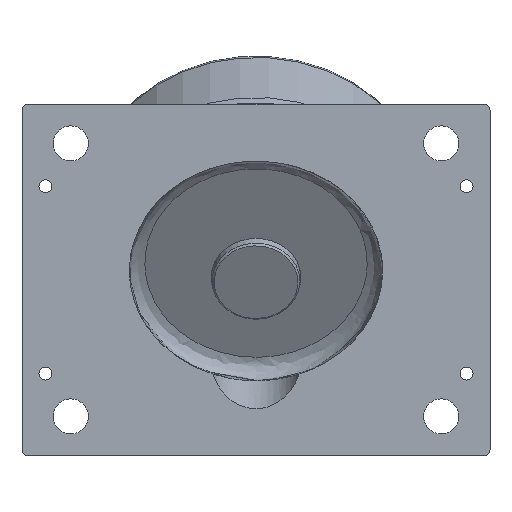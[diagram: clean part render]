
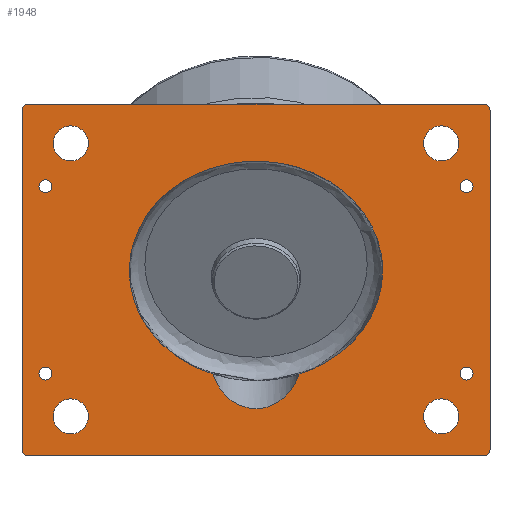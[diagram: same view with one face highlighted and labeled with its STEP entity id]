
A CAD part, front view. The second image highlights one B-rep face of the part: STEP entity #1948.
In plain terms, the highlighted planar face has unit normal (0, -1, 0) as drawn and (0, 0, -1) by its records, which use the part's own axes.
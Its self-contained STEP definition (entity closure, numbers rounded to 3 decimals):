
#38=ELLIPSE('',#2180,65.,56.292);
#39=ELLIPSE('',#2181,65.,56.292);
#44=ELLIPSE('',#2234,27.135,23.5);
#215=LINE('',#3709,#300);
#218=LINE('',#3717,#303);
#224=LINE('',#3778,#309);
#225=LINE('',#3781,#310);
#300=VECTOR('',#2643,174.);
#303=VECTOR('',#2652,234.);
#309=VECTOR('',#2680,174.);
#310=VECTOR('',#2683,234.);
#412=FACE_BOUND('',#646,.T.);
#413=FACE_BOUND('',#647,.T.);
#414=FACE_BOUND('',#648,.T.);
#415=FACE_BOUND('',#649,.T.);
#416=FACE_BOUND('',#650,.T.);
#417=FACE_BOUND('',#651,.T.);
#418=FACE_BOUND('',#652,.T.);
#419=FACE_BOUND('',#653,.T.);
#420=FACE_BOUND('',#654,.T.);
#502=FACE_OUTER_BOUND('',#645,.T.);
#645=EDGE_LOOP('',(#1565,#1566,#1567,#1568,#1569,#1570,#1571,#1572));
#646=EDGE_LOOP('',(#1573));
#647=EDGE_LOOP('',(#1574));
#648=EDGE_LOOP('',(#1575));
#649=EDGE_LOOP('',(#1576));
#650=EDGE_LOOP('',(#1577,#1578,#1579));
#651=EDGE_LOOP('',(#1580));
#652=EDGE_LOOP('',(#1581));
#653=EDGE_LOOP('',(#1582));
#654=EDGE_LOOP('',(#1583));
#774=CIRCLE('',#2155,3.325);
#776=CIRCLE('',#2158,3.325);
#779=CIRCLE('',#2162,3.325);
#781=CIRCLE('',#2165,3.325);
#813=CIRCLE('',#2217,3.);
#814=CIRCLE('',#2220,3.);
#818=CIRCLE('',#2231,3.);
#819=CIRCLE('',#2233,3.);
#820=CIRCLE('',#2235,9.);
#821=CIRCLE('',#2236,9.);
#822=CIRCLE('',#2237,9.);
#823=CIRCLE('',#2238,9.);
#911=VERTEX_POINT('',#3094);
#913=VERTEX_POINT('',#3100);
#916=VERTEX_POINT('',#3108);
#918=VERTEX_POINT('',#3114);
#928=VERTEX_POINT('',#3162);
#929=VERTEX_POINT('',#3163);
#930=VERTEX_POINT('',#3190);
#965=VERTEX_POINT('',#3701);
#966=VERTEX_POINT('',#3703);
#967=VERTEX_POINT('',#3707);
#968=VERTEX_POINT('',#3711);
#969=VERTEX_POINT('',#3715);
#976=VERTEX_POINT('',#3773);
#977=VERTEX_POINT('',#3777);
#978=VERTEX_POINT('',#3779);
#979=VERTEX_POINT('',#3783);
#980=VERTEX_POINT('',#3785);
#981=VERTEX_POINT('',#3787);
#982=VERTEX_POINT('',#3789);
#1095=EDGE_CURVE('',#911,#911,#774,.T.);
#1098=EDGE_CURVE('',#913,#913,#776,.T.);
#1103=EDGE_CURVE('',#916,#916,#779,.T.);
#1106=EDGE_CURVE('',#918,#918,#781,.T.);
#1121=EDGE_CURVE('',#930,#929,#38,.T.);
#1125=EDGE_CURVE('',#928,#930,#39,.T.);
#1173=EDGE_CURVE('',#965,#966,#813,.T.);
#1176=EDGE_CURVE('',#965,#967,#215,.T.);
#1178=EDGE_CURVE('',#968,#967,#814,.T.);
#1180=EDGE_CURVE('',#968,#969,#218,.T.);
#1191=EDGE_CURVE('',#976,#969,#818,.T.);
#1192=EDGE_CURVE('',#976,#977,#224,.T.);
#1193=EDGE_CURVE('',#978,#977,#819,.T.);
#1194=EDGE_CURVE('',#978,#966,#225,.T.);
#1195=EDGE_CURVE('',#929,#928,#44,.T.);
#1196=EDGE_CURVE('',#979,#979,#820,.T.);
#1197=EDGE_CURVE('',#980,#980,#821,.T.);
#1198=EDGE_CURVE('',#981,#981,#822,.T.);
#1199=EDGE_CURVE('',#982,#982,#823,.T.);
#1565=ORIENTED_EDGE('',*,*,#1191,.F.);
#1566=ORIENTED_EDGE('',*,*,#1192,.T.);
#1567=ORIENTED_EDGE('',*,*,#1193,.F.);
#1568=ORIENTED_EDGE('',*,*,#1194,.T.);
#1569=ORIENTED_EDGE('',*,*,#1173,.F.);
#1570=ORIENTED_EDGE('',*,*,#1176,.T.);
#1571=ORIENTED_EDGE('',*,*,#1178,.F.);
#1572=ORIENTED_EDGE('',*,*,#1180,.T.);
#1573=ORIENTED_EDGE('',*,*,#1095,.T.);
#1574=ORIENTED_EDGE('',*,*,#1098,.T.);
#1575=ORIENTED_EDGE('',*,*,#1103,.T.);
#1576=ORIENTED_EDGE('',*,*,#1106,.T.);
#1577=ORIENTED_EDGE('',*,*,#1125,.T.);
#1578=ORIENTED_EDGE('',*,*,#1121,.T.);
#1579=ORIENTED_EDGE('',*,*,#1195,.T.);
#1580=ORIENTED_EDGE('',*,*,#1196,.T.);
#1581=ORIENTED_EDGE('',*,*,#1197,.T.);
#1582=ORIENTED_EDGE('',*,*,#1198,.T.);
#1583=ORIENTED_EDGE('',*,*,#1199,.T.);
#1864=PLANE('',#2232);
#1948=ADVANCED_FACE('',(#502,#412,#413,#414,#415,#416,#417,#418,#419,#420),
#1864,.F.);
#2155=AXIS2_PLACEMENT_3D('',#3095,#2491,#2492);
#2158=AXIS2_PLACEMENT_3D('',#3101,#2498,#2499);
#2162=AXIS2_PLACEMENT_3D('',#3110,#2508,#2509);
#2165=AXIS2_PLACEMENT_3D('',#3116,#2515,#2516);
#2180=AXIS2_PLACEMENT_3D('',#3191,#2549,#2550);
#2181=AXIS2_PLACEMENT_3D('',#3221,#2552,#2553);
#2217=AXIS2_PLACEMENT_3D('',#3704,#2637,#2638);
#2220=AXIS2_PLACEMENT_3D('',#3713,#2647,#2648);
#2231=AXIS2_PLACEMENT_3D('',#3775,#2676,#2677);
#2232=AXIS2_PLACEMENT_3D('',#3776,#2678,#2679);
#2233=AXIS2_PLACEMENT_3D('',#3780,#2681,#2682);
#2234=AXIS2_PLACEMENT_3D('',#3782,#2684,#2685);
#2235=AXIS2_PLACEMENT_3D('',#3784,#2686,#2687);
#2236=AXIS2_PLACEMENT_3D('',#3786,#2688,#2689);
#2237=AXIS2_PLACEMENT_3D('',#3788,#2690,#2691);
#2238=AXIS2_PLACEMENT_3D('',#3790,#2692,#2693);
#2491=DIRECTION('center_axis',(0.,0.,
1.));
#2492=DIRECTION('ref_axis',(1.,0.,0.));
#2498=DIRECTION('center_axis',(0.,0.,
1.));
#2499=DIRECTION('ref_axis',(1.,0.,0.));
#2508=DIRECTION('center_axis',(0.,0.,
1.));
#2509=DIRECTION('ref_axis',(-1.,0.,0.));
#2515=DIRECTION('center_axis',(0.,0.,
1.));
#2516=DIRECTION('ref_axis',(-1.,0.,0.));
#2549=DIRECTION('center_axis',(0.,0.,
1.));
#2550=DIRECTION('ref_axis',(-1.,0.,0.));
#2552=DIRECTION('center_axis',(0.,0.,
1.));
#2553=DIRECTION('ref_axis',(-1.,0.,0.));
#2637=DIRECTION('center_axis',(0.,0.,
1.));
#2638=DIRECTION('ref_axis',(-0.707,-0.707,0.));
#2643=DIRECTION('',(0.,1.,0.));
#2647=DIRECTION('center_axis',(0.,0.,
1.));
#2648=DIRECTION('ref_axis',(-0.707,0.707,0.));
#2652=DIRECTION('',(1.,0.,0.));
#2676=DIRECTION('center_axis',(0.,0.,
1.));
#2677=DIRECTION('ref_axis',(0.707,0.707,0.));
#2678=DIRECTION('center_axis',(0.,0.,
1.));
#2679=DIRECTION('ref_axis',(0.,-1.,0.));
#2680=DIRECTION('',(0.,-1.,0.));
#2681=DIRECTION('center_axis',(0.,0.,
1.));
#2682=DIRECTION('ref_axis',(0.707,-0.707,0.));
#2683=DIRECTION('',(-1.,0.,0.));
#2684=DIRECTION('center_axis',(0.,0.,
1.));
#2685=DIRECTION('ref_axis',(0.,1.,0.));
#2686=DIRECTION('center_axis',(0.,0.,
1.));
#2687=DIRECTION('ref_axis',(1.,0.,0.));
#2688=DIRECTION('center_axis',(0.,0.,
1.));
#2689=DIRECTION('ref_axis',(1.,0.,0.));
#2690=DIRECTION('center_axis',(0.,0.,
1.));
#2691=DIRECTION('ref_axis',(1.,0.,0.));
#2692=DIRECTION('center_axis',(0.,0.,
1.));
#2693=DIRECTION('ref_axis',(1.,0.,0.));
#3094=CARTESIAN_POINT('',(104.675,71.075,0.));
#3095=CARTESIAN_POINT('Origin',(108.,71.075,0.));
#3100=CARTESIAN_POINT('',(104.675,-24.925,0.));
#3101=CARTESIAN_POINT('Origin',(108.,-24.925,0.));
#3108=CARTESIAN_POINT('',(-104.675,71.075,0.));
#3110=CARTESIAN_POINT('Origin',(-108.,71.075,0.));
#3114=CARTESIAN_POINT('',(-104.675,-24.925,0.));
#3116=CARTESIAN_POINT('Origin',(-108.,-24.925,0.));
#3162=CARTESIAN_POINT('',(-22.032,71.402,0.));
#3163=CARTESIAN_POINT('',(22.032,71.402,0.));
#3190=CARTESIAN_POINT('',(65.,18.443,0.));
#3191=CARTESIAN_POINT('Origin',(0.,18.443,0.));
#3221=CARTESIAN_POINT('Origin',(0.,18.443,0.));
#3701=CARTESIAN_POINT('',(-120.,-63.925,0.));
#3703=CARTESIAN_POINT('',(-117.,-66.925,0.));
#3704=CARTESIAN_POINT('Origin',(-117.,-63.925,0.));
#3707=CARTESIAN_POINT('',(-120.,110.075,0.));
#3709=CARTESIAN_POINT('',(-120.,-66.925,0.));
#3711=CARTESIAN_POINT('',(-117.,113.075,0.));
#3713=CARTESIAN_POINT('Origin',(-117.,110.075,0.));
#3715=CARTESIAN_POINT('',(117.,113.075,0.));
#3717=CARTESIAN_POINT('',(-120.,113.075,0.));
#3773=CARTESIAN_POINT('',(120.,110.075,0.));
#3775=CARTESIAN_POINT('Origin',(117.,110.075,0.));
#3776=CARTESIAN_POINT('Origin',(0.,23.075,
0.));
#3777=CARTESIAN_POINT('',(120.,-63.925,0.));
#3778=CARTESIAN_POINT('',(120.,113.075,0.));
#3779=CARTESIAN_POINT('',(117.,-66.925,0.));
#3780=CARTESIAN_POINT('Origin',(117.,-63.925,0.));
#3781=CARTESIAN_POINT('',(120.,-66.925,0.));
#3782=CARTESIAN_POINT('Origin',(0.,61.961,0.));
#3783=CARTESIAN_POINT('',(86.,-46.925,0.));
#3784=CARTESIAN_POINT('Origin',(95.,-46.925,0.));
#3785=CARTESIAN_POINT('',(-104.,93.075,0.));
#3786=CARTESIAN_POINT('Origin',(-95.,93.075,0.));
#3787=CARTESIAN_POINT('',(86.,93.075,0.));
#3788=CARTESIAN_POINT('Origin',(95.,93.075,0.));
#3789=CARTESIAN_POINT('',(-104.,-46.925,0.));
#3790=CARTESIAN_POINT('Origin',(-95.,-46.925,0.));
